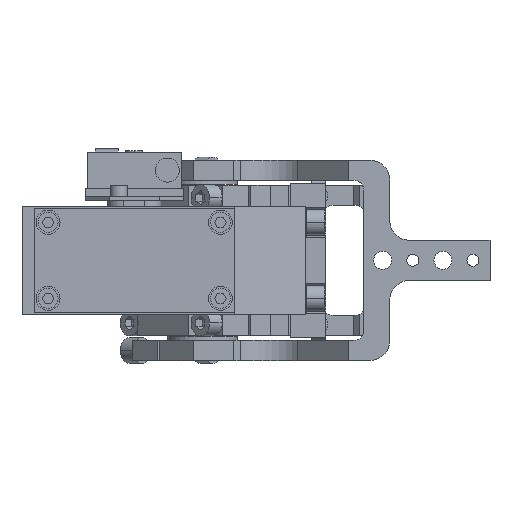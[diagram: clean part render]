
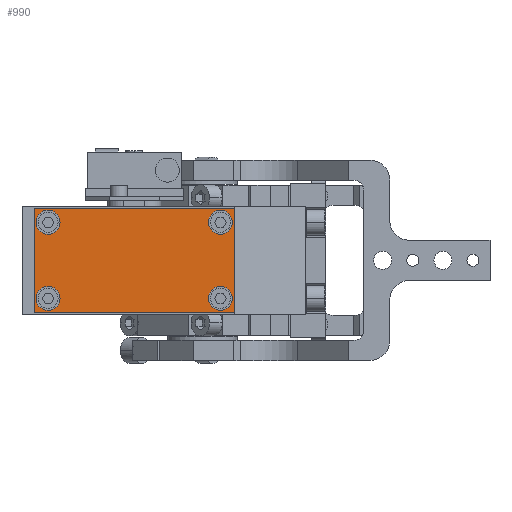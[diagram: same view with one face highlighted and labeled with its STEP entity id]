
A CAD part, front view. The second image highlights one B-rep face of the part: STEP entity #990.
In plain terms, the highlighted planar face has unit normal (0, -1, 0).
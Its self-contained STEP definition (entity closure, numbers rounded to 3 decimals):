
#234 = CIRCLE ( 'NONE', #12628, 6. ) ;
#928 = CARTESIAN_POINT ( 'NONE',  ( -84., -294.5, 53. ) ) ;
#990 = ADVANCED_FACE ( 'NONE', ( #6143, #5820, #1088, #4969, #4771 ), #19259, .T. ) ;
#1088 = FACE_BOUND ( 'NONE', #5525, .T. ) ;
#1197 = CIRCLE ( 'NONE', #18708, 6. ) ;
#1374 = DIRECTION ( 'NONE',  ( 1., 0., 0. ) ) ;
#1487 = ORIENTED_EDGE ( 'NONE', *, *, #10002, .F. ) ;
#1497 = CARTESIAN_POINT ( 'NONE',  ( -77., -294.5, 40. ) ) ;
#3209 = AXIS2_PLACEMENT_3D ( 'NONE', #15936, #7983, #5271 ) ;
#3431 = DIRECTION ( 'NONE',  ( 0., 0., -1. ) ) ;
#3451 = EDGE_CURVE ( 'NONE', #7349, #10042, #17880, .T. ) ;
#3695 = ORIENTED_EDGE ( 'NONE', *, *, #4227, .F. ) ;
#3732 = EDGE_LOOP ( 'NONE', ( #3695, #7182 ) ) ;
#3937 = EDGE_CURVE ( 'NONE', #11077, #11254, #5143, .T. ) ;
#4044 = CARTESIAN_POINT ( 'NONE',  ( -84., -294.5, 1. ) ) ;
#4227 = EDGE_CURVE ( 'NONE', #10347, #10324, #1197, .T. ) ;
#4493 = CARTESIAN_POINT ( 'NONE',  ( -77., -294.5, 52. ) ) ;
#4692 = EDGE_LOOP ( 'NONE', ( #18310, #7162 ) ) ;
#4771 = FACE_OUTER_BOUND ( 'NONE', #8981, .T. ) ;
#4969 = FACE_BOUND ( 'NONE', #8419, .T. ) ;
#5090 = ORIENTED_EDGE ( 'NONE', *, *, #10491, .F. ) ;
#5143 = CIRCLE ( 'NONE', #9530, 6. ) ;
#5167 = LINE ( 'NONE', #20453, #8526 ) ;
#5271 = DIRECTION ( 'NONE',  ( 0., 0., -1. ) ) ;
#5427 = AXIS2_PLACEMENT_3D ( 'NONE', #22266, #9233, #6545 ) ;
#5467 = AXIS2_PLACEMENT_3D ( 'NONE', #17561, #17387, #17237 ) ;
#5525 = EDGE_LOOP ( 'NONE', ( #6089, #14238 ) ) ;
#5820 = FACE_BOUND ( 'NONE', #4692, .T. ) ;
#6089 = ORIENTED_EDGE ( 'NONE', *, *, #22051, .F. ) ;
#6123 = DIRECTION ( 'NONE',  ( 0., -1., 0. ) ) ;
#6143 = FACE_BOUND ( 'NONE', #3732, .T. ) ;
#6465 = CARTESIAN_POINT ( 'NONE',  ( 9., -294.5, 52. ) ) ;
#6545 = DIRECTION ( 'NONE',  ( 0., 0., -1. ) ) ;
#6937 = EDGE_CURVE ( 'NONE', #12064, #12367, #25085, .T. ) ;
#7162 = ORIENTED_EDGE ( 'NONE', *, *, #3937, .F. ) ;
#7182 = ORIENTED_EDGE ( 'NONE', *, *, #8048, .F. ) ;
#7349 = VERTEX_POINT ( 'NONE', #10922 ) ;
#7983 = DIRECTION ( 'NONE',  ( 0., -1., 0. ) ) ;
#8048 = EDGE_CURVE ( 'NONE', #10324, #10347, #21074, .T. ) ;
#8164 = VERTEX_POINT ( 'NONE', #928 ) ;
#8334 = CARTESIAN_POINT ( 'NONE',  ( 9., -294.5, 46. ) ) ;
#8419 = EDGE_LOOP ( 'NONE', ( #1487, #5090 ) ) ;
#8526 = VECTOR ( 'NONE', #17863, 1000. ) ;
#8826 = CARTESIAN_POINT ( 'NONE',  ( -77., -294.5, 46. ) ) ;
#8890 = CARTESIAN_POINT ( 'NONE',  ( 9., -294.5, 14. ) ) ;
#8981 = EDGE_LOOP ( 'NONE', ( #22385, #19357, #10006, #17129 ) ) ;
#9226 = EDGE_CURVE ( 'NONE', #11254, #11077, #13935, .T. ) ;
#9233 = DIRECTION ( 'NONE',  ( 0., -1., 0. ) ) ;
#9530 = AXIS2_PLACEMENT_3D ( 'NONE', #21427, #18907, #16243 ) ;
#9933 = CARTESIAN_POINT ( 'NONE',  ( -77., -294.5, 14. ) ) ;
#9978 = EDGE_CURVE ( 'NONE', #8164, #10195, #16493, .T. ) ;
#10002 = EDGE_CURVE ( 'NONE', #12970, #12849, #21830, .T. ) ;
#10006 = ORIENTED_EDGE ( 'NONE', *, *, #18562, .F. ) ;
#10019 = DIRECTION ( 'NONE',  ( 0., 0., -1. ) ) ;
#10042 = VERTEX_POINT ( 'NONE', #14592 ) ;
#10195 = VERTEX_POINT ( 'NONE', #14269 ) ;
#10324 = VERTEX_POINT ( 'NONE', #9933 ) ;
#10347 = VERTEX_POINT ( 'NONE', #17250 ) ;
#10450 = CARTESIAN_POINT ( 'NONE',  ( 9., -294.5, 2. ) ) ;
#10491 = EDGE_CURVE ( 'NONE', #12849, #12970, #21941, .T. ) ;
#10784 = CARTESIAN_POINT ( 'NONE',  ( -77., -294.5, 8. ) ) ;
#10922 = CARTESIAN_POINT ( 'NONE',  ( -84., -294.5, 1. ) ) ;
#11077 = VERTEX_POINT ( 'NONE', #8890 ) ;
#11215 = DIRECTION ( 'NONE',  ( 1., 0., 0. ) ) ;
#11254 = VERTEX_POINT ( 'NONE', #10450 ) ;
#12064 = VERTEX_POINT ( 'NONE', #6465 ) ;
#12234 = AXIS2_PLACEMENT_3D ( 'NONE', #17974, #12679, #10019 ) ;
#12367 = VERTEX_POINT ( 'NONE', #20876 ) ;
#12628 = AXIS2_PLACEMENT_3D ( 'NONE', #8334, #20860, #18303 ) ;
#12679 = DIRECTION ( 'NONE',  ( 0., -1., 0. ) ) ;
#12849 = VERTEX_POINT ( 'NONE', #4493 ) ;
#12970 = VERTEX_POINT ( 'NONE', #1497 ) ;
#13179 = VECTOR ( 'NONE', #18057, 1000. ) ;
#13836 = CARTESIAN_POINT ( 'NONE',  ( -84., -294.5, 53. ) ) ;
#13935 = CIRCLE ( 'NONE', #5427, 6. ) ;
#14238 = ORIENTED_EDGE ( 'NONE', *, *, #6937, .F. ) ;
#14269 = CARTESIAN_POINT ( 'NONE',  ( 16., -294.5, 53. ) ) ;
#14592 = CARTESIAN_POINT ( 'NONE',  ( 16., -294.5, 1. ) ) ;
#15425 = DIRECTION ( 'NONE',  ( 0., 0., -1. ) ) ;
#15936 = CARTESIAN_POINT ( 'NONE',  ( 9., -294.5, 46. ) ) ;
#16243 = DIRECTION ( 'NONE',  ( 0., 0., -1. ) ) ;
#16493 = LINE ( 'NONE', #13836, #17919 ) ;
#17129 = ORIENTED_EDGE ( 'NONE', *, *, #9978, .F. ) ;
#17237 = DIRECTION ( 'NONE',  ( 0., 0., -1. ) ) ;
#17245 = AXIS2_PLACEMENT_3D ( 'NONE', #23472, #21077, #18542 ) ;
#17250 = CARTESIAN_POINT ( 'NONE',  ( -77., -294.5, 2. ) ) ;
#17387 = DIRECTION ( 'NONE',  ( 0., -1., 0. ) ) ;
#17561 = CARTESIAN_POINT ( 'NONE',  ( 0., -294.5, 0. ) ) ;
#17786 = EDGE_CURVE ( 'NONE', #8164, #7349, #23046, .T. ) ;
#17863 = DIRECTION ( 'NONE',  ( 0., 0., -1. ) ) ;
#17880 = LINE ( 'NONE', #4044, #22366 ) ;
#17919 = VECTOR ( 'NONE', #11215, 1000. ) ;
#17974 = CARTESIAN_POINT ( 'NONE',  ( -77., -294.5, 8. ) ) ;
#18057 = DIRECTION ( 'NONE',  ( 0., 0., -1. ) ) ;
#18099 = DIRECTION ( 'NONE',  ( 0., -1., 0. ) ) ;
#18303 = DIRECTION ( 'NONE',  ( 0., 0., -1. ) ) ;
#18310 = ORIENTED_EDGE ( 'NONE', *, *, #9226, .F. ) ;
#18542 = DIRECTION ( 'NONE',  ( 0., 0., -1. ) ) ;
#18562 = EDGE_CURVE ( 'NONE', #10195, #10042, #5167, .T. ) ;
#18708 = AXIS2_PLACEMENT_3D ( 'NONE', #10784, #18099, #15425 ) ;
#18907 = DIRECTION ( 'NONE',  ( 0., -1., 0. ) ) ;
#19259 = PLANE ( 'NONE',  #5467 ) ;
#19357 = ORIENTED_EDGE ( 'NONE', *, *, #3451, .T. ) ;
#20453 = CARTESIAN_POINT ( 'NONE',  ( 16., -294.5, 53. ) ) ;
#20632 = CARTESIAN_POINT ( 'NONE',  ( -84., -294.5, 53. ) ) ;
#20860 = DIRECTION ( 'NONE',  ( 0., -1., 0. ) ) ;
#20876 = CARTESIAN_POINT ( 'NONE',  ( 9., -294.5, 40. ) ) ;
#21004 = AXIS2_PLACEMENT_3D ( 'NONE', #8826, #6123, #3431 ) ;
#21074 = CIRCLE ( 'NONE', #12234, 6. ) ;
#21077 = DIRECTION ( 'NONE',  ( 0., -1., 0. ) ) ;
#21427 = CARTESIAN_POINT ( 'NONE',  ( 9., -294.5, 8. ) ) ;
#21830 = CIRCLE ( 'NONE', #17245, 6. ) ;
#21941 = CIRCLE ( 'NONE', #21004, 6. ) ;
#22051 = EDGE_CURVE ( 'NONE', #12367, #12064, #234, .T. ) ;
#22266 = CARTESIAN_POINT ( 'NONE',  ( 9., -294.5, 8. ) ) ;
#22366 = VECTOR ( 'NONE', #1374, 1000. ) ;
#22385 = ORIENTED_EDGE ( 'NONE', *, *, #17786, .T. ) ;
#23046 = LINE ( 'NONE', #20632, #13179 ) ;
#23472 = CARTESIAN_POINT ( 'NONE',  ( -77., -294.5, 46. ) ) ;
#25085 = CIRCLE ( 'NONE', #3209, 6. ) ;
